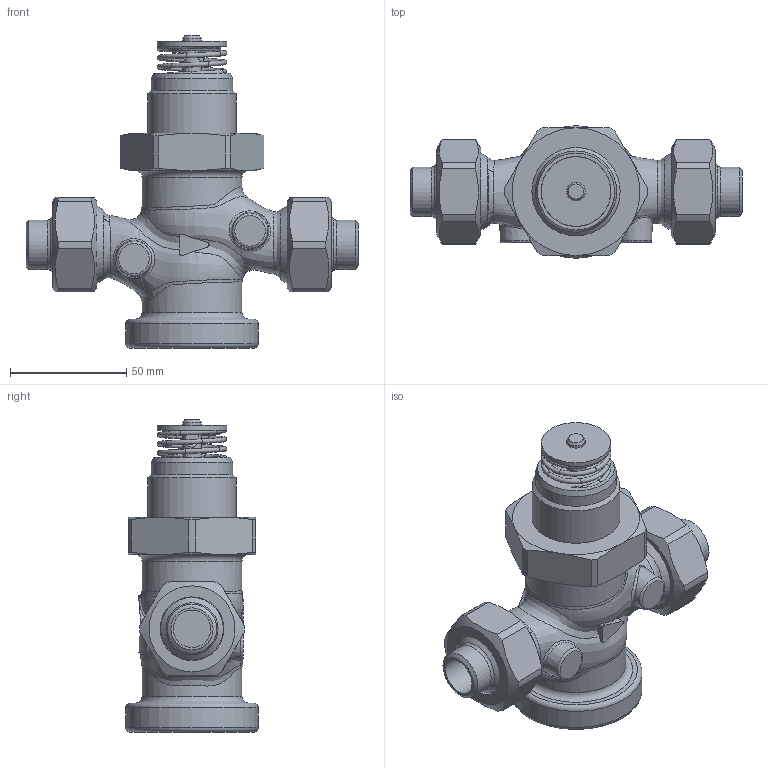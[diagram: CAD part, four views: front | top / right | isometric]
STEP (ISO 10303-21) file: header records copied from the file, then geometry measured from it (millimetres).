
FILE_DESCRIPTION(/* description */ (''),/* implementation_level */ '2;1');
FILE_NAME(/* name */ 'rv122r_dn15_W.stp',/* time_stamp */ '2012-05-24T07:12:21+02:00',/* author */ ('KLIMES'),/* organization */ ('LDM'),/* preprocessor_version */ 'ST-DEVELOPER v11',/* originating_system */ 'SIEMENS PLM Software NX 7.0',/* authorisation */ '');
FILE_SCHEMA (('CONFIG_CONTROL_DESIGN'));
Length unit declared in the file: millimetre
Products named in the file (1): klim6733ifz5
Bounding box: 143 x 57 x 134.5 mm (x, y, z)
Volume: 38747.8 mm3; surface area: 53907 mm2
Topology: 6 solids, 7 shells, 200 faces, 469 edges, 297 vertices
Faces by surface type: plane 59, cylinder 53, cone 36, torus 28, bspline 24
Full cylindrical faces by diameter (mm): 8 x2, 16.1 x2, 21 x2, 21.3 x2, 24.5 x1, 27 x2, 27.5 x2, 30 x5, 30.291 x2, 33.249 x2, 35 x1, 38 x1, 43 x2, 57 x1
Entity records: 10934 total; most frequent: CARTESIAN_POINT 7041, DIRECTION 761, ORIENTED_EDGE 690, AXIS2_PLACEMENT_3D 351, EDGE_CURVE 345, EDGE_LOOP 305, VERTEX_POINT 254, FACE_BOUND 208
